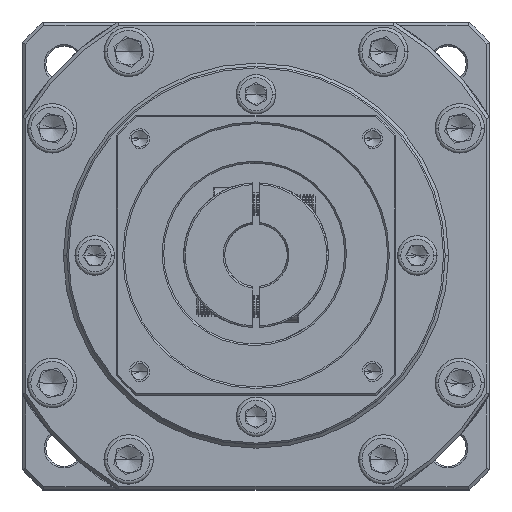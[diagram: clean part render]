
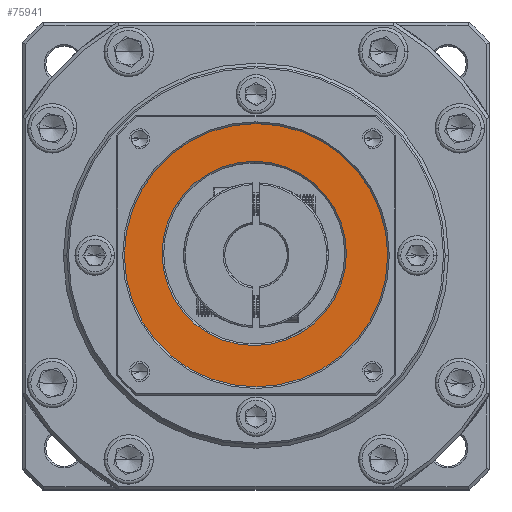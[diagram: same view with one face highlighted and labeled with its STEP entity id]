
A CAD part, top view. The second image highlights one B-rep face of the part: STEP entity #75941.
In plain terms, the highlighted planar face has unit normal (0, 0, 1).
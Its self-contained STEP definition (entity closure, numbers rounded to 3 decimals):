
#8310 = DIRECTION ( 'NONE',  ( 0., 0., -1. ) ) ;
#10714 = CIRCLE ( 'NONE', #121831, 40. ) ;
#11471 = ORIENTED_EDGE ( 'NONE', *, *, #75565, .T. ) ;
#15309 = FACE_OUTER_BOUND ( 'NONE', #69490, .T. ) ;
#17953 = DIRECTION ( 'NONE',  ( 1., 0., 0. ) ) ;
#19861 = FACE_BOUND ( 'NONE', #125584, .T. ) ;
#20595 = CARTESIAN_POINT ( 'NONE',  ( -61.567, 36.809, 30.502 ) ) ;
#23357 = VERTEX_POINT ( 'NONE', #20595 ) ;
#26368 = CARTESIAN_POINT ( 'NONE',  ( -102.108, 37.343, 30.502 ) ) ;
#29045 = DIRECTION ( 'NONE',  ( 1., 0., 0. ) ) ;
#35457 = CARTESIAN_POINT ( 'NONE',  ( -141.567, 36.809, 30.502 ) ) ;
#37298 = AXIS2_PLACEMENT_3D ( 'NONE', #43350, #81696, #122124 ) ;
#37928 = CARTESIAN_POINT ( 'NONE',  ( -102.108, 37.343, 30.502 ) ) ;
#38094 = DIRECTION ( 'NONE',  ( 0., 0., 1. ) ) ;
#41575 = CIRCLE ( 'NONE', #37298, 40. ) ;
#43350 = CARTESIAN_POINT ( 'NONE',  ( -101.567, 36.809, 30.502 ) ) ;
#43555 = EDGE_CURVE ( 'NONE', #46277, #23357, #10714, .T. ) ;
#46277 = VERTEX_POINT ( 'NONE', #35457 ) ;
#46644 = CIRCLE ( 'NONE', #123703, 28. ) ;
#56048 = DIRECTION ( 'NONE',  ( 0., 0., -1. ) ) ;
#58963 = CARTESIAN_POINT ( 'NONE',  ( -130.108, 37.343, 30.502 ) ) ;
#59089 = CARTESIAN_POINT ( 'NONE',  ( -101.567, 36.809, 30.502 ) ) ;
#64740 = VERTEX_POINT ( 'NONE', #76401 ) ;
#69490 = EDGE_LOOP ( 'NONE', ( #11471, #87738 ) ) ;
#74236 = ORIENTED_EDGE ( 'NONE', *, *, #105405, .T. ) ;
#75565 = EDGE_CURVE ( 'NONE', #23357, #46277, #41575, .T. ) ;
#75941 = ADVANCED_FACE ( 'NONE', ( #15309, #19861 ), #118132, .T. ) ;
#76323 = EDGE_CURVE ( 'NONE', #76531, #64740, #119771, .T. ) ;
#76401 = CARTESIAN_POINT ( 'NONE',  ( -74.108, 37.343, 30.502 ) ) ;
#76531 = VERTEX_POINT ( 'NONE', #58963 ) ;
#77301 = CARTESIAN_POINT ( 'NONE',  ( -101.567, 36.809, 30.502 ) ) ;
#81696 = DIRECTION ( 'NONE',  ( 0., 0., 1. ) ) ;
#86873 = AXIS2_PLACEMENT_3D ( 'NONE', #59089, #38094, #29045 ) ;
#87738 = ORIENTED_EDGE ( 'NONE', *, *, #43555, .T. ) ;
#105405 = EDGE_CURVE ( 'NONE', #64740, #76531, #46644, .T. ) ;
#105754 = DIRECTION ( 'NONE',  ( 0., 0., 1. ) ) ;
#107205 = DIRECTION ( 'NONE',  ( 1., 0., 0. ) ) ;
#113334 = DIRECTION ( 'NONE',  ( 1., 0., 0. ) ) ;
#118132 = PLANE ( 'NONE',  #86873 ) ;
#119771 = CIRCLE ( 'NONE', #125761, 28. ) ;
#121831 = AXIS2_PLACEMENT_3D ( 'NONE', #77301, #105754, #17953 ) ;
#122124 = DIRECTION ( 'NONE',  ( 1., 0., 0. ) ) ;
#123703 = AXIS2_PLACEMENT_3D ( 'NONE', #37928, #8310, #107205 ) ;
#124790 = ORIENTED_EDGE ( 'NONE', *, *, #76323, .T. ) ;
#125584 = EDGE_LOOP ( 'NONE', ( #74236, #124790 ) ) ;
#125761 = AXIS2_PLACEMENT_3D ( 'NONE', #26368, #56048, #113334 ) ;
